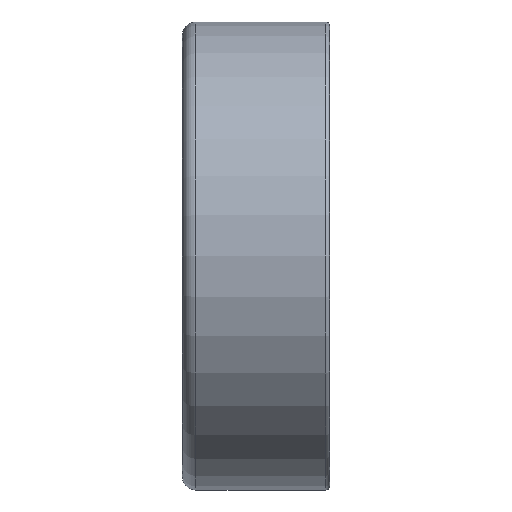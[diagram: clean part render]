
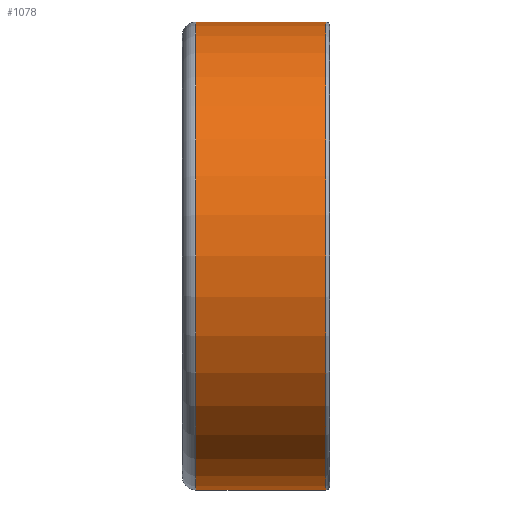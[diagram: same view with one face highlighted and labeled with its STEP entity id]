
A CAD part, front view. The second image highlights one B-rep face of the part: STEP entity #1078.
In plain terms, the highlighted cylindrical face has radius 17.5 mm (diameter 35 mm), a full revolution.
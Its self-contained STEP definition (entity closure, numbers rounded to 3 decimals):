
#187=LINE('',#1627,#220);
#220=VECTOR('',#1368,17.5);
#252=CYLINDRICAL_SURFACE('',#1211,17.5);
#277=FACE_OUTER_BOUND('',#335,.T.);
#335=EDGE_LOOP('',(#778,#779,#780,#781,#782,#783));
#425=CIRCLE('',#1209,17.5);
#426=CIRCLE('',#1210,17.5);
#427=CIRCLE('',#1212,17.5);
#428=CIRCLE('',#1213,17.5);
#483=VERTEX_POINT('',#1620);
#484=VERTEX_POINT('',#1622);
#485=VERTEX_POINT('',#1626);
#486=VERTEX_POINT('',#1628);
#599=EDGE_CURVE('',#483,#484,#425,.T.);
#600=EDGE_CURVE('',#484,#483,#426,.T.);
#601=EDGE_CURVE('',#484,#485,#187,.T.);
#602=EDGE_CURVE('',#486,#485,#427,.T.);
#603=EDGE_CURVE('',#485,#486,#428,.T.);
#778=ORIENTED_EDGE('',*,*,#600,.F.);
#779=ORIENTED_EDGE('',*,*,#601,.T.);
#780=ORIENTED_EDGE('',*,*,#602,.F.);
#781=ORIENTED_EDGE('',*,*,#603,.F.);
#782=ORIENTED_EDGE('',*,*,#601,.F.);
#783=ORIENTED_EDGE('',*,*,#599,.F.);
#1078=ADVANCED_FACE('',(#277),#252,.T.);
#1209=AXIS2_PLACEMENT_3D('',#1623,#1362,#1363);
#1210=AXIS2_PLACEMENT_3D('',#1624,#1364,#1365);
#1211=AXIS2_PLACEMENT_3D('',#1625,#1366,#1367);
#1212=AXIS2_PLACEMENT_3D('',#1629,#1369,#1370);
#1213=AXIS2_PLACEMENT_3D('',#1630,#1371,#1372);
#1362=DIRECTION('center_axis',(1.,0.,0.));
#1363=DIRECTION('ref_axis',(0.,-1.,0.));
#1364=DIRECTION('center_axis',(1.,0.,0.));
#1365=DIRECTION('ref_axis',(0.,-1.,0.));
#1366=DIRECTION('center_axis',(1.,0.,0.));
#1367=DIRECTION('ref_axis',(0.,1.,0.));
#1368=DIRECTION('',(-1.,0.,0.));
#1369=DIRECTION('center_axis',(-1.,0.,0.));
#1370=DIRECTION('ref_axis',(0.,-1.,0.));
#1371=DIRECTION('center_axis',(-1.,0.,0.));
#1372=DIRECTION('ref_axis',(0.,-1.,0.));
#1620=CARTESIAN_POINT('',(5.087,0.,17.5));
#1622=CARTESIAN_POINT('',(5.087,-17.5,0.));
#1623=CARTESIAN_POINT('Origin',(5.087,0.,0.));
#1624=CARTESIAN_POINT('Origin',(5.087,0.,0.));
#1625=CARTESIAN_POINT('Origin',(-0.113,0.,0.));
#1626=CARTESIAN_POINT('',(-4.613,-17.5,0.));
#1627=CARTESIAN_POINT('',(-0.113,-17.5,0.));
#1628=CARTESIAN_POINT('',(-4.613,0.,17.5));
#1629=CARTESIAN_POINT('Origin',(-4.613,0.,0.));
#1630=CARTESIAN_POINT('Origin',(-4.613,0.,0.));
